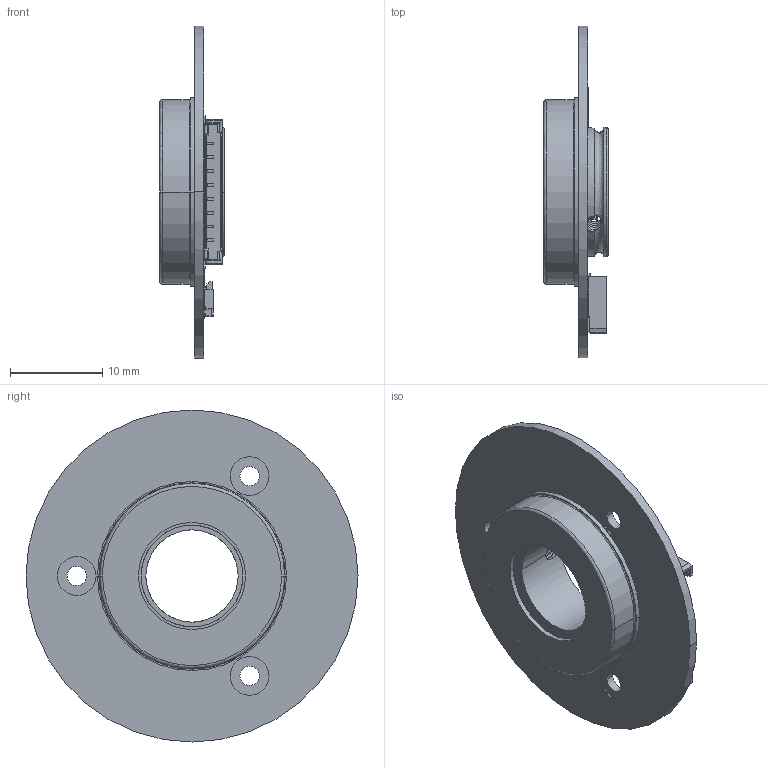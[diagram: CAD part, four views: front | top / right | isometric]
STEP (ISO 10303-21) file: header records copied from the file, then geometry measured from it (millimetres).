
FILE_DESCRIPTION (( 'STEP AP214' ), '1' );
FILE_NAME ('MBS-10-36¸üÐÂ.STEP', '2024-07-09T09:06:26', ( '' ), ( '' ), 'SwSTEP 2.0', 'SolidWorks 2016', '' );
FILE_SCHEMA (( 'AUTOMOTIVE_DESIGN' ));
Length unit declared in the file: millimetre
Products named in the file (1): MBS-10-36載陔
Bounding box: 7.01 x 36 x 36 mm (x, y, z)
Volume: 1555.5 mm3; surface area: 4211.5 mm2
Topology: 6 solids, 32 shells, 1094 faces, 2934 edges, 1913 vertices
Faces by surface type: plane 774, bspline 177, cylinder 137, cone 6
Entity records: 59154 total; most frequent: CARTESIAN_POINT 29854, ORIENTED_EDGE 5834, DIRECTION 4659, EDGE_CURVE 2917, VECTOR 2239, LINE 2239, VERTEX_POINT 1913, AXIS2_PLACEMENT_3D 1210
